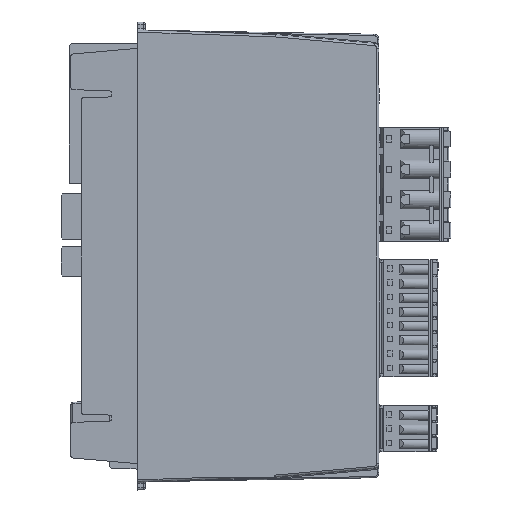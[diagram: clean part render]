
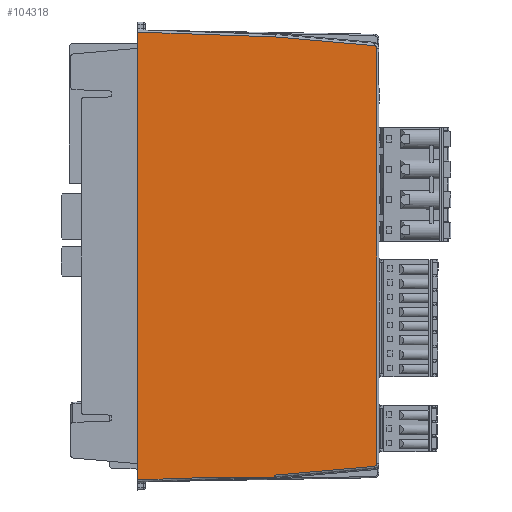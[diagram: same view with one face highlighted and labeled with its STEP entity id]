
A CAD part, left-side view. The second image highlights one B-rep face of the part: STEP entity #104318.
In plain terms, the highlighted planar face has unit normal (-1, -0.018, 0).
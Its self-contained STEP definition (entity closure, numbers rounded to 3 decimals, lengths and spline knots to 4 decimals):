
#758=ELLIPSE('',#111686,0.0315,0.0315);
#759=ELLIPSE('',#111687,0.0315,0.0315);
#4989=PLANE('',#111685);
#10837=FACE_OUTER_BOUND('',#16485,.T.);
#16485=EDGE_LOOP('',(#90180,#90181,#90182,#90183,#90184,#90185,#90186,#90187,
#90188,#90189,#90190,#90191,#90192));
#29526=LINE('',#169248,#40682);
#29539=LINE('',#169320,#40695);
#29622=LINE('',#169659,#40778);
#29947=LINE('',#171037,#41103);
#29948=LINE('',#171039,#41104);
#29949=LINE('',#171043,#41105);
#29950=LINE('',#171047,#41106);
#29951=LINE('',#171049,#41107);
#29952=LINE('',#171051,#41108);
#29953=LINE('',#171053,#41109);
#29954=LINE('',#171054,#41110);
#40682=VECTOR('',#135115,0.3937);
#40695=VECTOR('',#135156,0.3937);
#40778=VECTOR('',#135425,39.3701);
#41103=VECTOR('',#136156,39.3701);
#41104=VECTOR('',#136157,39.3701);
#41105=VECTOR('',#136160,39.3701);
#41106=VECTOR('',#136163,39.3701);
#41107=VECTOR('',#136164,39.3701);
#41108=VECTOR('',#136165,39.3701);
#41109=VECTOR('',#136166,39.3701);
#41110=VECTOR('',#136167,39.3701);
#49835=VERTEX_POINT('',#169244);
#49837=VERTEX_POINT('',#169247);
#49859=VERTEX_POINT('',#169315);
#49966=VERTEX_POINT('',#169658);
#50300=VERTEX_POINT('',#171036);
#50301=VERTEX_POINT('',#171038);
#50302=VERTEX_POINT('',#171040);
#50303=VERTEX_POINT('',#171042);
#50304=VERTEX_POINT('',#171044);
#50305=VERTEX_POINT('',#171046);
#50306=VERTEX_POINT('',#171048);
#50307=VERTEX_POINT('',#171050);
#50308=VERTEX_POINT('',#171052);
#63143=EDGE_CURVE('',#49835,#49837,#29526,.T.);
#63170=EDGE_CURVE('',#49837,#49859,#29539,.T.);
#63314=EDGE_CURVE('',#49966,#49859,#29622,.T.);
#63788=EDGE_CURVE('',#49835,#50300,#29947,.T.);
#63789=EDGE_CURVE('',#50300,#50301,#29948,.T.);
#63790=EDGE_CURVE('',#50301,#50302,#758,.T.);
#63791=EDGE_CURVE('',#50302,#50303,#29949,.T.);
#63792=EDGE_CURVE('',#50303,#50304,#759,.T.);
#63793=EDGE_CURVE('',#50304,#50305,#29950,.T.);
#63794=EDGE_CURVE('',#50305,#50306,#29951,.T.);
#63795=EDGE_CURVE('',#50306,#50307,#29952,.T.);
#63796=EDGE_CURVE('',#50308,#50307,#29953,.T.);
#63797=EDGE_CURVE('',#50308,#49966,#29954,.T.);
#90180=ORIENTED_EDGE('',*,*,#63788,.T.);
#90181=ORIENTED_EDGE('',*,*,#63789,.T.);
#90182=ORIENTED_EDGE('',*,*,#63790,.T.);
#90183=ORIENTED_EDGE('',*,*,#63791,.T.);
#90184=ORIENTED_EDGE('',*,*,#63792,.T.);
#90185=ORIENTED_EDGE('',*,*,#63793,.T.);
#90186=ORIENTED_EDGE('',*,*,#63794,.T.);
#90187=ORIENTED_EDGE('',*,*,#63795,.T.);
#90188=ORIENTED_EDGE('',*,*,#63796,.F.);
#90189=ORIENTED_EDGE('',*,*,#63797,.T.);
#90190=ORIENTED_EDGE('',*,*,#63314,.T.);
#90191=ORIENTED_EDGE('',*,*,#63170,.F.);
#90192=ORIENTED_EDGE('',*,*,#63143,.F.);
#104318=ADVANCED_FACE('',(#10837),#4989,.T.);
#111685=AXIS2_PLACEMENT_3D('',#171035,#136154,#136155);
#111686=AXIS2_PLACEMENT_3D('',#171041,#136158,#136159);
#111687=AXIS2_PLACEMENT_3D('',#171045,#136161,#136162);
#135115=DIRECTION('',(0.,0.,-1.));
#135156=DIRECTION('',(-0.017,1.,0.));
#135425=DIRECTION('',(0.017,-0.999,0.035));
#136154=DIRECTION('center_axis',(-1.,-0.017,
0.));
#136155=DIRECTION('ref_axis',(-0.017,1.,0.));
#136156=DIRECTION('',(0.017,-0.999,0.035));
#136157=DIRECTION('',(0.017,-0.996,0.087));
#136158=DIRECTION('center_axis',(-1.,-0.017,
0.));
#136159=DIRECTION('ref_axis',(0.017,-1.,0.));
#136160=DIRECTION('',(0.,0.,1.));
#136161=DIRECTION('center_axis',(-1.,-0.017,
0.));
#136162=DIRECTION('ref_axis',(0.017,-1.,0.));
#136163=DIRECTION('',(-0.017,0.996,0.087));
#136164=DIRECTION('',(-0.017,0.999,0.035));
#136165=DIRECTION('',(0.,0.,-1.));
#136166=DIRECTION('',(0.,0.,1.));
#136167=DIRECTION('',(0.,0.,-1.));
#169244=CARTESIAN_POINT('',(0.0005,-2.2096,-4.1958));
#169247=CARTESIAN_POINT('',(0.0005,-2.2096,-4.2206));
#169248=CARTESIAN_POINT('',(0.0005,-2.2096,-3.155));
#169315=CARTESIAN_POINT('',(-0.0119,-1.4997,-4.2206));
#169320=CARTESIAN_POINT('',(-0.0131,-1.4351,-4.2206));
#169658=CARTESIAN_POINT('',(-0.0227,-0.8827,-4.2421));
#169659=CARTESIAN_POINT('',(-0.0282,-0.5654,-4.2532));
#171035=CARTESIAN_POINT('Origin',(-0.0296,-0.489,
-2.0669));
#171036=CARTESIAN_POINT('',(0.0007,-2.2205,-4.1954));
#171037=CARTESIAN_POINT('',(-0.0282,-0.5654,-4.2532));
#171038=CARTESIAN_POINT('',(0.0174,-3.1772,-4.1117));
#171039=CARTESIAN_POINT('',(-0.0261,-0.6869,-4.3296));
#171040=CARTESIAN_POINT('',(0.0179,-3.2059,-4.0803));
#171041=CARTESIAN_POINT('Origin',(0.0173,-3.1744,
-4.0803));
#171042=CARTESIAN_POINT('',(0.0179,-3.2059,-0.0535));
#171043=CARTESIAN_POINT('',(0.0179,-3.2059,-0.0535));
#171044=CARTESIAN_POINT('',(0.0174,-3.1772,-0.0221));
#171045=CARTESIAN_POINT('Origin',(0.0173,-3.1744,
-0.0535));
#171046=CARTESIAN_POINT('',(0.0007,-2.2205,0.0616));
#171047=CARTESIAN_POINT('',(-0.0261,-0.6869,0.1957));
#171048=CARTESIAN_POINT('',(-0.0227,-0.8827,0.1083));
#171049=CARTESIAN_POINT('',(-0.0282,-0.5654,0.1194));
#171050=CARTESIAN_POINT('',(-0.0227,-0.8827,-0.0312));
#171051=CARTESIAN_POINT('',(-0.0227,-0.8827,0.128));
#171052=CARTESIAN_POINT('',(-0.0227,-0.8827,-4.1027));
#171053=CARTESIAN_POINT('',(-0.0227,-0.8827,-7.5932));
#171054=CARTESIAN_POINT('',(-0.0227,-0.8827,0.128));
